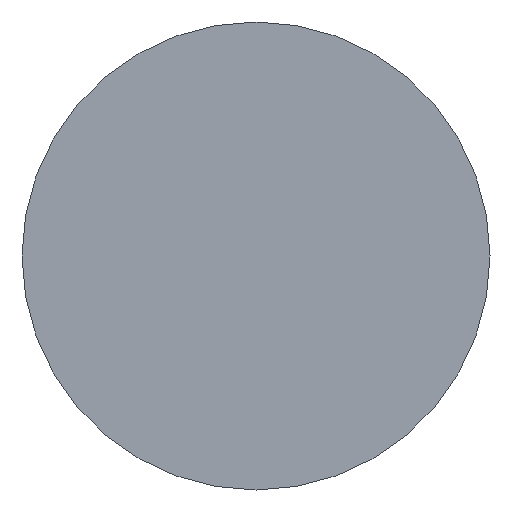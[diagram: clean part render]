
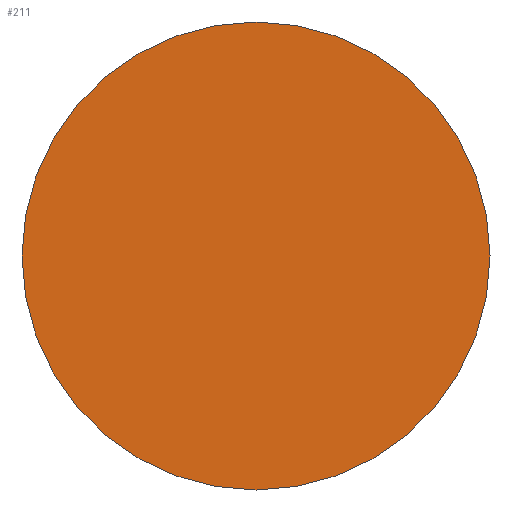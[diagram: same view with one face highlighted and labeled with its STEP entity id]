
A CAD part, left-side view. The second image highlights one B-rep face of the part: STEP entity #211.
In plain terms, the highlighted planar face has unit normal (-1, 0, 0).
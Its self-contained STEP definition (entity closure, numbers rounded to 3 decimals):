
#10 = ORIENTED_EDGE ( 'NONE', *, *, #219, .F. ) ;
#13 = DIRECTION ( 'NONE',  ( 1., 0., 0. ) ) ;
#17 = CARTESIAN_POINT ( 'NONE',  ( 0., 8., 0. ) ) ;
#25 = CARTESIAN_POINT ( 'NONE',  ( 0., 0., 0. ) ) ;
#43 = CARTESIAN_POINT ( 'NONE',  ( 0., -8., 0. ) ) ;
#44 = AXIS2_PLACEMENT_3D ( 'NONE', #173, #13, #158 ) ;
#69 = EDGE_CURVE ( 'NONE', #237, #96, #88, .T. ) ;
#77 = CARTESIAN_POINT ( 'NONE',  ( 0., 0., 0. ) ) ;
#88 = CIRCLE ( 'NONE', #44, 8. ) ;
#91 = AXIS2_PLACEMENT_3D ( 'NONE', #77, #199, #227 ) ;
#93 = ORIENTED_EDGE ( 'NONE', *, *, #69, .F. ) ;
#96 = VERTEX_POINT ( 'NONE', #17 ) ;
#122 = PLANE ( 'NONE',  #166 ) ;
#128 = CIRCLE ( 'NONE', #91, 8. ) ;
#129 = EDGE_LOOP ( 'NONE', ( #10, #93 ) ) ;
#158 = DIRECTION ( 'NONE',  ( 0., 1., 0. ) ) ;
#166 = AXIS2_PLACEMENT_3D ( 'NONE', #25, #252, #245 ) ;
#173 = CARTESIAN_POINT ( 'NONE',  ( 0., 0., 0. ) ) ;
#199 = DIRECTION ( 'NONE',  ( 1., 0., 0. ) ) ;
#211 = ADVANCED_FACE ( 'NONE', ( #257 ), #122, .T. ) ;
#219 = EDGE_CURVE ( 'NONE', #96, #237, #128, .T. ) ;
#227 = DIRECTION ( 'NONE',  ( 0., 1., 0. ) ) ;
#237 = VERTEX_POINT ( 'NONE', #43 ) ;
#245 = DIRECTION ( 'NONE',  ( 0., -1., 0. ) ) ;
#252 = DIRECTION ( 'NONE',  ( -1., 0., 0. ) ) ;
#257 = FACE_OUTER_BOUND ( 'NONE', #129, .T. ) ;
